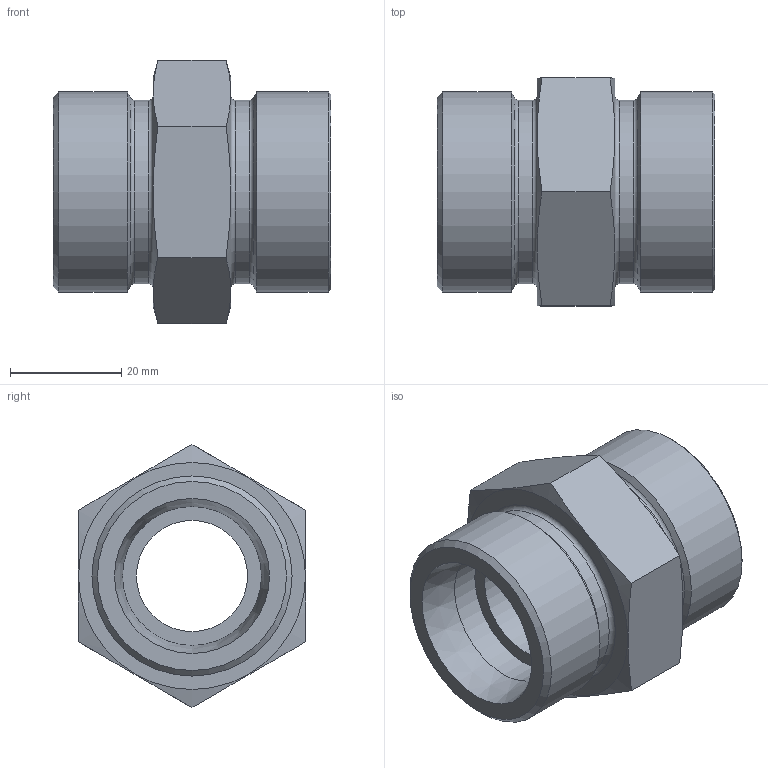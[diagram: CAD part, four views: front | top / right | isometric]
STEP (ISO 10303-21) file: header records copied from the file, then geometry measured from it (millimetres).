
FILE_DESCRIPTION( ( 'Unknown' ), '1' );
FILE_NAME( 'C:/Users/p.nanko/Desktop/3D SR/XG25S.stp', 'Unknown', ( 'Peter Nanko' ), ( 'Armaturen Arndt' ), 'PSStep 14.0', 'Solid Edge ST4', ' ' );
FILE_SCHEMA( ( 'AUTOMOTIVE_DESIGN { 1 0 10303 214 1 1 1 1 }' ) );
Length unit declared in the file: millimetre
Products named in the file (1): 1
Bounding box: 50 x 41 x 47.34 mm (x, y, z)
Volume: 34791.1 mm3; surface area: 11874.2 mm2
Topology: 1 solids, 1 shells, 31 faces, 65 edges, 40 vertices
Faces by surface type: plane 12, cone 8, cylinder 7, torus 4
Full cylindrical faces by diameter (mm): 20 x1, 25 x2, 33 x2, 36 x2
Entity records: 1036 total; most frequent: CARTESIAN_POINT 210, DIRECTION 118, ORIENTED_EDGE 84, AXIS2_PLACEMENT_3D 56, EDGE_LOOP 56, FACE_OUTER_BOUND 42, EDGE_CURVE 42, VERTEX_POINT 36
